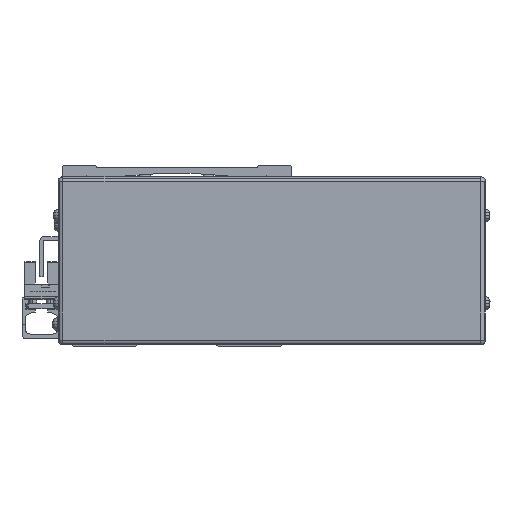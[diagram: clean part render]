
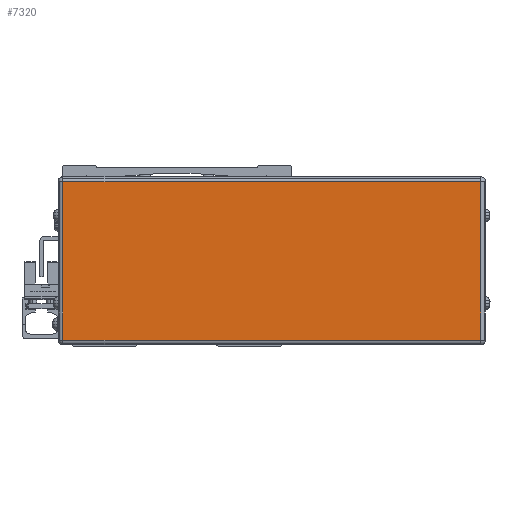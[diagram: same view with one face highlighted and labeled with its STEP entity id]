
A CAD part, front view. The second image highlights one B-rep face of the part: STEP entity #7320.
In plain terms, the highlighted planar face has unit normal (0, -1, 0).
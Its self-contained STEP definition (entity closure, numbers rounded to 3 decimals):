
#7320=ADVANCED_FACE('',(#14923),#14924,.T.);
#14923=FACE_OUTER_BOUND('',#24315,.T.);
#14924=PLANE('',#24316);
#24315=EDGE_LOOP('',(#45634,#45635,#45636,#45637));
#24316=AXIS2_PLACEMENT_3D('',#45638,#45639,#45640);
#45634=ORIENTED_EDGE('',*,*,#53961,.F.);
#45635=ORIENTED_EDGE('',*,*,#52964,.F.);
#45636=ORIENTED_EDGE('',*,*,#56714,.F.);
#45637=ORIENTED_EDGE('',*,*,#49522,.F.);
#45638=CARTESIAN_POINT('',(39.,-338.778,-42.5));
#45639=DIRECTION('',(0.0,-1.0,0.0));
#45640=DIRECTION('',(1.0,0.0,0.0));
#49522=EDGE_CURVE('',#59574,#59576,#59577,.T.);
#52964=EDGE_CURVE('',#65152,#65154,#65155,.T.);
#53961=EDGE_CURVE('',#65154,#59574,#66573,.T.);
#56714=EDGE_CURVE('',#59576,#65152,#69951,.T.);
#59574=VERTEX_POINT('',#74024);
#59576=VERTEX_POINT('',#74026);
#59577=LINE('',#74027,#74028);
#65152=VERTEX_POINT('',#82500);
#65154=VERTEX_POINT('',#82502);
#65155=LINE('',#82503,#82504);
#66573=LINE('',#84490,#84491);
#69951=LINE('',#89386,#89387);
#74024=CARTESIAN_POINT('',(-46.7,-338.778,-40.5));
#74026=CARTESIAN_POINT('',(-46.7,-338.778,24.5));
#74027=CARTESIAN_POINT('',(-46.7,-338.778,-42.5));
#74028=VECTOR('',#91549,10.0);
#82500=CARTESIAN_POINT('',(124.7,-338.778,24.5));
#82502=CARTESIAN_POINT('',(124.7,-338.778,-40.5));
#82503=CARTESIAN_POINT('',(124.7,-338.778,-42.5));
#82504=VECTOR('',#95903,10.0);
#84490=CARTESIAN_POINT('',(39.,-338.778,-40.5));
#84491=VECTOR('',#97210,10.0);
#89386=CARTESIAN_POINT('',(39.,-338.778,24.5));
#89387=VECTOR('',#99987,10.0);
#91549=DIRECTION('',(0.0,0.0,1.0));
#95903=DIRECTION('',(0.0,0.0,-1.0));
#97210=DIRECTION('',(-1.0,0.0,0.0));
#99987=DIRECTION('',(1.0,0.0,0.0));
